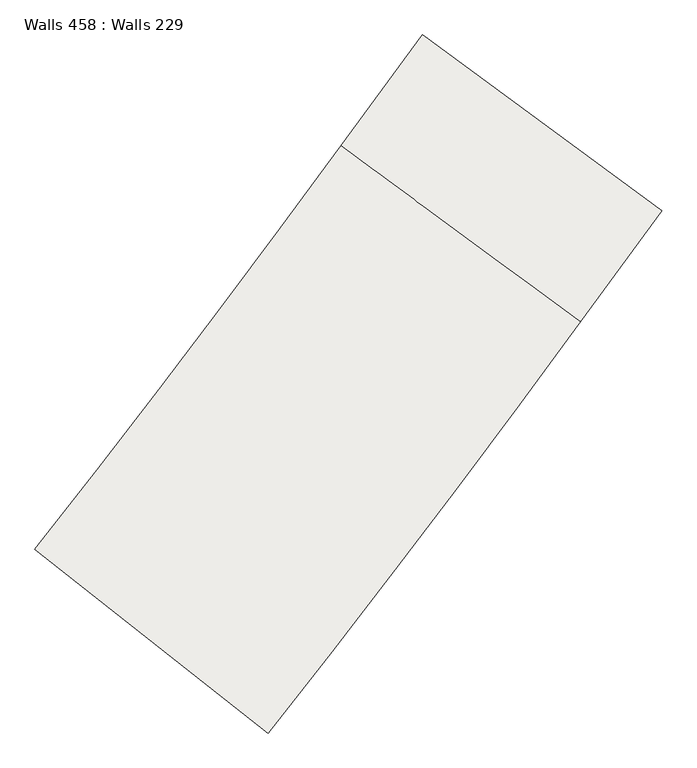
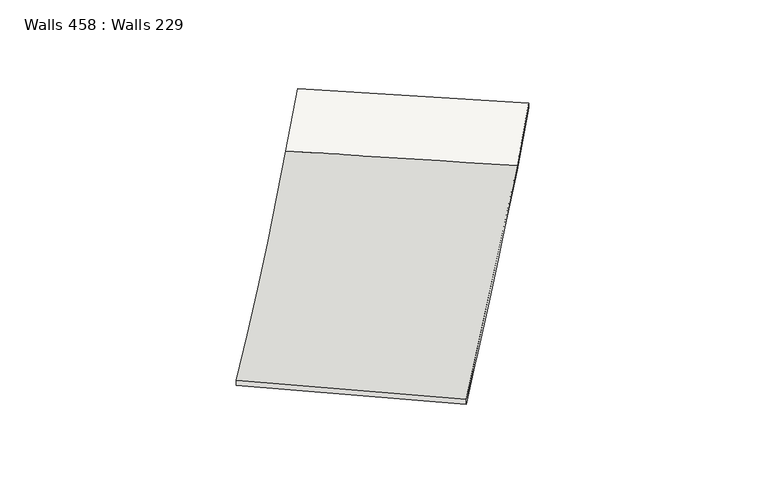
"""IFC4 building model written with IfcOpenShell, lengths in millimetres: slab geometry, Walls 458 : Walls 229."""

from ifc_helpers import new_model, si_unit, frame, origin, place, context, project, spatial, source, transform, mapped, element, save
from ifc_brep_helpers import plane_surface, spline_curve, spline_surface, advanced_brep


def walls_458_walls_229_19432b18(model_context):
    return source(origin(), model_context, "Body", "AdvancedBrep", [
        advanced_brep(
        [(421109.1702727, 299880.1875182, 645474.7), (421109.1702727, 299880.1875182, 645374.7), (424252.6259645, 297407.7272715, 645374.7), (424252.6259645, 297407.7272715, 645474.7), (426325.5094067, 306803.7152193, 645586.9), (429552.3159406, 304439.8794397, 645586.9), (429552.3159406, 304439.8794397, 645486.9), (426325.5094067, 306803.7152193, 645486.9), (428457.129535, 302944.8709117, 645563.0), (425230.3230011, 305308.7066913, 645563.0), (425230.3230011, 305308.7066913, 645463.0), (428457.129535, 302944.8709117, 645463.0)],
        [
            (0, 1),
            (1, 2),
            (2, 3),
            (3, 0),
            (4, 5),
            (5, 6),
            (6, 7),
            (7, 4),
            (3, 8, spline_curve(3, [(424252.6259645, 297407.7272715, 645474.7), (425685.581262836, 299229.269685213, 645504.133333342), (427087.356265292, 301075.344710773, 645533.566666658), (428457.129535, 302944.8709117, 645563.0)], [4, 4], [0.0, 22.588251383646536])),
            (8, 9, spline_curve(3, [(428457.129535, 302944.8709117, 645563.0), (427381.527356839, 303732.816171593, 645563.0), (426305.925179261, 304520.761431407, 645563.0), (425230.3230011, 305308.7066913, 645563.0)], [4, 4], [0.0, 13.122205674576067])),
            (9, 0, spline_curve(3, [(425230.3230011, 305308.7066913, 645563.0), (423887.713250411, 303475.863903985, 645533.566666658), (422513.727361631, 301666.004050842, 645504.133333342), (421109.1702727, 299880.1875182, 645474.7)], [4, 4], [0.0, 22.588251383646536])),
            (4, 9),
            (8, 5),
            (9, 10, spline_curve(3, [(425230.3230011, 305308.7066913, 645563.0), (425230.3230011, 305308.7066913, 645529.666666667), (425230.3230011, 305308.7066913, 645496.333333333), (425230.3230011, 305308.7066913, 645463.0)], [4, 4], [0.0, 0.3280839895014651])),
            (10, 1, spline_curve(3, [(425230.3230011, 305308.7066913, 645463.0), (423887.713250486, 303475.863903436, 645433.566666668), (422513.727361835, 301666.004050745, 645404.133333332), (421109.1702727, 299880.1875182, 645374.7)], [4, 4], [0.0, 22.363661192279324])),
            (10, 11, spline_curve(3, [(425230.3230011, 305308.7066913, 645463.0), (426305.925179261, 304520.761431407, 645463.0), (427381.527356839, 303732.816171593, 645463.0), (428457.129535, 302944.8709117, 645463.0)], [4, 4], [0.0, 13.122205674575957])),
            (11, 2, spline_curve(3, [(428457.129535, 302944.8709117, 645463.0), (427087.356265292, 301075.344710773, 645433.566666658), (425685.581262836, 299229.269685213, 645404.133333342), (424252.6259645, 297407.7272715, 645374.7)], [4, 4], [0.0, 22.588251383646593])),
            (11, 8, spline_curve(3, [(428457.129535, 302944.8709117, 645463.0), (428457.129535, 302944.8709117, 645496.333333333), (428457.129535, 302944.8709117, 645529.666666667), (428457.129535, 302944.8709117, 645563.0)], [4, 4], [0.0, 0.3280839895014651])),
            (7, 10),
            (6, 11),
        ],
        [
            plane_surface(frame((422680.8981186, 298643.9573949, 645424.7), z_axis=(-0.6182237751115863, -0.7860021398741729, 0.0), x_axis=(0.0, 0.0, -1.0))),
            plane_surface(frame((427938.9126737, 305621.7973295, 645536.9), z_axis=(0.5909589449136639, 0.8067016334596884, 0.0), x_axis=(0.0, 0.0, -1.0))),
            spline_surface(3, 3, [[(428457.129535, 302944.8709117, 645563.0), (427087.356265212, 301075.344711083, 645533.566666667), (425685.581262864, 299229.269685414, 645504.133333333), (424252.6259645, 297407.7272715, 645474.7)], [(427381.527357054, 303732.816171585, 645563.0), (426020.808593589, 301875.517775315, 645533.566666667), (424628.296629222, 300041.514473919, 645504.133333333), (423204.807400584, 298231.880687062, 645474.7)], [(426305.925179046, 304520.761431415, 645563.0), (424954.260921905, 302675.690839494, 645533.566666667), (423571.011995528, 300853.759262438, 645504.133333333), (422156.988836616, 299056.034102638, 645474.7)], [(425230.3230011, 305308.7066913, 645563.0), (423887.713250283, 303475.863903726, 645533.566666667), (422513.727361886, 301666.004050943, 645504.133333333), (421109.1702727, 299880.1875182, 645474.7)]], [4, 4], [4, 4], [0.0, 13.122205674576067], [0.0, 22.588251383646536]),
            plane_surface(frame((427938.9126737, 305621.7973295, 645586.9), z_axis=(-0.00762058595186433, -0.010402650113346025, 0.9999168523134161), x_axis=(-0.8067016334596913, 0.5909589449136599, 0.0))),
            spline_surface(3, 3, [[(425230.3230011, 305308.7066913, 645563.0), (423887.713250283, 303475.863903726, 645533.566666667), (422513.727361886, 301666.004050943, 645504.133333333), (421109.1702727, 299880.1875182, 645474.7)], [(425230.3230011, 305308.7066913, 645529.666666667), (423887.713250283, 303475.863903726, 645500.233333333), (422513.727361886, 301666.004050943, 645470.8), (421109.1702727, 299880.1875182, 645441.366666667)], [(425230.3230011, 305308.7066913, 645496.333333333), (423887.713250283, 303475.863903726, 645466.9), (422513.727361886, 301666.004050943, 645437.466666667), (421109.1702727, 299880.1875182, 645408.033333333)], [(425230.3230011, 305308.7066913, 645463.0), (423887.713250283, 303475.863903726, 645433.566666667), (422513.727361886, 301666.004050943, 645404.133333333), (421109.1702727, 299880.1875182, 645374.7)]], [4, 4], [4, 4], [0.0, 0.3280839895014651], [0.0, 22.363661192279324]),
            spline_surface(3, 3, [[(425230.3230011, 305308.7066913, 645463.0), (423887.713250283, 303475.863903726, 645433.566666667), (422513.727361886, 301666.004050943, 645404.133333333), (421109.1702727, 299880.1875182, 645374.7)], [(426305.925179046, 304520.761431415, 645463.0), (424954.260921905, 302675.690839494, 645433.566666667), (423571.011995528, 300853.759262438, 645404.133333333), (422156.988836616, 299056.034102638, 645374.7)], [(427381.527357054, 303732.816171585, 645463.0), (426020.808593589, 301875.517775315, 645433.566666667), (424628.296629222, 300041.514473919, 645404.133333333), (423204.807400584, 298231.880687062, 645374.7)], [(428457.129535, 302944.8709117, 645463.0), (427087.356265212, 301075.344711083, 645433.566666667), (425685.581262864, 299229.269685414, 645404.133333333), (424252.6259645, 297407.7272715, 645374.7)]], [4, 4], [4, 4], [0.0, 13.122205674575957], [0.0, 22.588251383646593]),
            spline_surface(3, 3, [[(428457.129535, 302944.8709117, 645463.0), (427087.356265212, 301075.344711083, 645433.566666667), (425685.581262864, 299229.269685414, 645404.133333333), (424252.6259645, 297407.7272715, 645374.7)], [(428457.129535, 302944.8709117, 645496.333333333), (427087.356265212, 301075.344711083, 645466.9), (425685.581262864, 299229.269685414, 645437.466666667), (424252.6259645, 297407.7272715, 645408.033333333)], [(428457.129535, 302944.8709117, 645529.666666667), (427087.356265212, 301075.344711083, 645500.233333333), (425685.581262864, 299229.269685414, 645470.8), (424252.6259645, 297407.7272715, 645441.366666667)], [(428457.129535, 302944.8709117, 645563.0), (427087.356265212, 301075.344711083, 645533.566666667), (425685.581262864, 299229.269685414, 645504.133333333), (424252.6259645, 297407.7272715, 645474.7)]], [4, 4], [4, 4], [0.0, 0.3280839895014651], [0.0, 22.81284200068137]),
            plane_surface(frame((426325.5094067, 306803.7152193, 645536.9), z_axis=(-0.8067016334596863, 0.5909589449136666, 0.0), x_axis=(0.0, 0.0, -1.0))),
            plane_surface(frame((427938.9126737, 305621.7973295, 645486.9), z_axis=(0.007620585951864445, 0.01040265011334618, -0.9999168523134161), x_axis=(0.8067016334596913, -0.5909589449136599, 0.0))),
            plane_surface(frame((429552.3159406, 304439.8794397, 645536.9), z_axis=(0.8067016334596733, -0.5909589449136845, 0.0), x_axis=(0.0, 0.0, 1.0))),
        ],
        [
            (0, [[1, 2, 3, 4]]),
            (1, [[5, 6, 7, 8]]),
            (2, [[-4, 9, 10, 11]]),
            (3, [[-5, 12, -10, 13]]),
            (4, [[-1, -11, 14, 15]]),
            (5, [[-2, -15, 16, 17]]),
            (6, [[-3, -17, 18, -9]]),
            (7, [[-8, 19, -14, -12]]),
            (8, [[-7, 20, -16, -19]]),
            (9, [[-6, -13, -18, -20]]),
        ],
    ),
    ])


if __name__ == "__main__":
    model = new_model("IFC4")
    model_context = context("Model", 3, world=origin())
    ifc_project = project(units=[si_unit("LENGTHUNIT", "METRE", prefix="MILLI")], contexts=[model_context])
    site = spatial("IfcSite", under=ifc_project)
    building = spatial("IfcBuilding", under=site)
    placement = place(None, origin())
    walls_458_walls_229_shape = walls_458_walls_229_19432b18(model_context)
    element("IfcSlab", 1, ObjectType="Walls 458 : Walls 229", at=placement, inside=building, context=model_context, shape_type="MappedRepresentation", body=[
        mapped(walls_458_walls_229_shape, transform((0.0, 0.0, 0.0), x_axis=(1.0, 0.0, 0.0), y_axis=(0.0, 1.0, 0.0), z_axis=(0.0, 0.0, 1.0))),
    ])
    save(model, "model.ifc")
